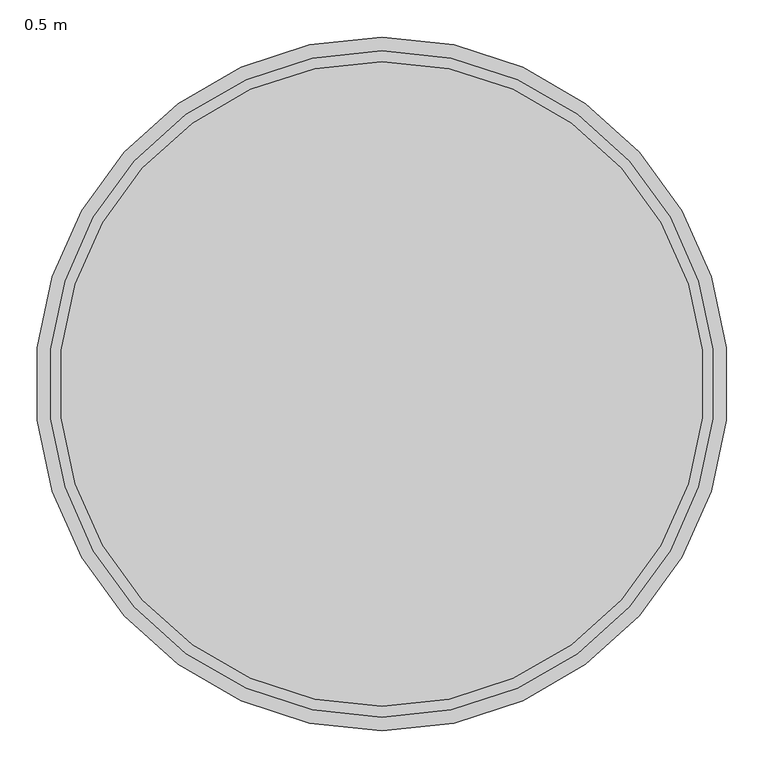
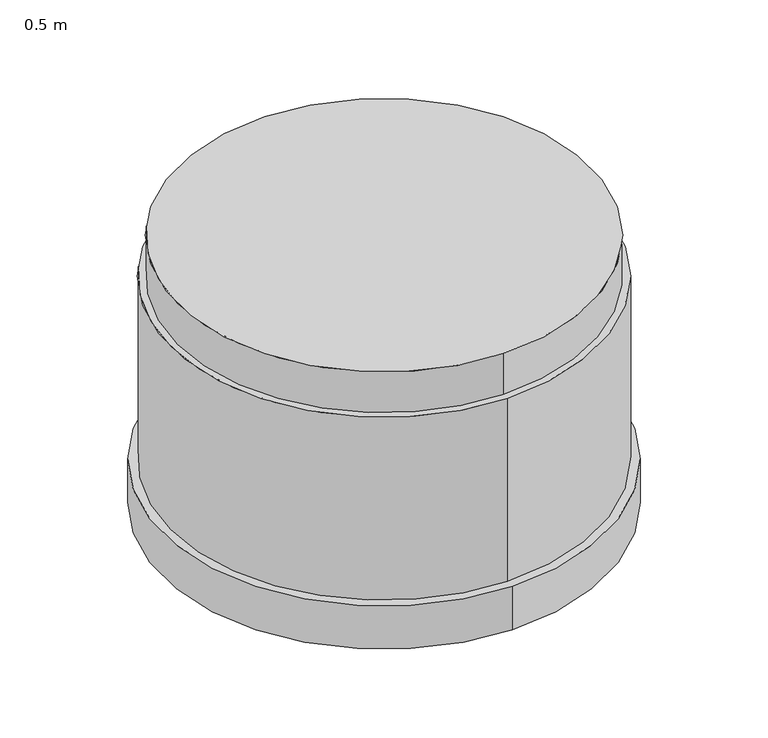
"""IFC4 building model written with IfcOpenShell, lengths in millimetres: valve geometry, Pipelife - Studnia PRO - Pierścień studni 800 : 0.5 m."""

from ifc_helpers import new_model, si_unit, point, frame, origin, origin_with_axes, origin_2d, place, context, project, spatial, circle_curve, trimmed, segment, composite_curve, outline, extrude, source, transform, mapped, element, save


def valve_0_5_m_eb5ad9ef(model_context):
    return source(origin(), model_context, "Body", "SweptSolid", [
        extrude(outline(composite_curve([segment(trimmed(circle_curve(origin_2d(), 432.0), [point((0.0, 432.0))], [point((0.0, -432.0))], False, "CARTESIAN"), True, "CONTINUOUS"), segment(trimmed(circle_curve(origin_2d(), 432.0), [point((0.0, -432.0))], [point((0.0, 432.0))], False, "CARTESIAN"), True, "CONTINUOUS")], self_intersect=False)), frame((0.0, 0.0, 501.0), z_axis=(0.0, 0.0, 1.0), x_axis=(1.0, 0.0, 0.0)), (0.0, 0.0, 1.0), 90.0),
        extrude(outline(composite_curve([segment(trimmed(circle_curve(origin_2d(), 446.5), [point((0.0, 446.5))], [point((0.0, -446.5))], False, "CARTESIAN"), True, "CONTINUOUS"), segment(trimmed(circle_curve(origin_2d(), 446.5), [point((0.0, -446.5))], [point((0.0, 446.5))], False, "CARTESIAN"), True, "CONTINUOUS")], self_intersect=False)), frame((0.0, 0.0, 96.0), z_axis=(0.0, 0.0, 1.0), x_axis=(1.0, 0.0, 0.0)), (0.0, 0.0, 1.0), 405.0),
        extrude(outline(composite_curve([segment(trimmed(circle_curve(origin_2d(), 464.5), [point((0.0, 464.5))], [point((0.0, -464.5))], False, "CARTESIAN"), True, "CONTINUOUS"), segment(trimmed(circle_curve(origin_2d(), 464.5), [point((0.0, -464.5))], [point((0.0, 464.5))], False, "CARTESIAN"), True, "CONTINUOUS")], self_intersect=False)), origin_with_axes(), (0.0, 0.0, 1.0), 96.0),
    ])


if __name__ == "__main__":
    model = new_model("IFC4")
    model_context = context("Model", 3, world=origin())
    ifc_project = project(units=[si_unit("LENGTHUNIT", "METRE", prefix="MILLI")], contexts=[model_context])
    site = spatial("IfcSite", under=ifc_project)
    building = spatial("IfcBuilding", under=site)
    placement = place(None, origin())
    valve_0_5_m_shape = valve_0_5_m_eb5ad9ef(model_context)
    element("IfcValve", 1, ObjectType="Pipelife - Studnia PRO - Pierścień studni 800 : 0.5 m", at=placement, inside=building, context=model_context, shape_type="MappedRepresentation", body=[
        mapped(valve_0_5_m_shape, transform((0.0, 0.0, 0.0), x_axis=(1.0, 0.0, 0.0), y_axis=(0.0, 1.0, 0.0), z_axis=(0.0, 0.0, 1.0))),
    ])
    save(model, "model.ifc")
